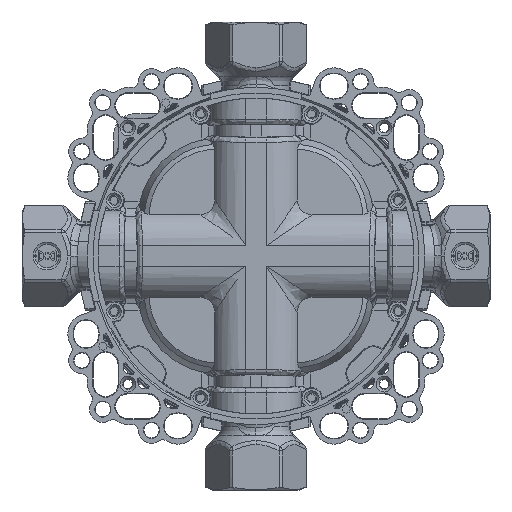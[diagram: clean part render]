
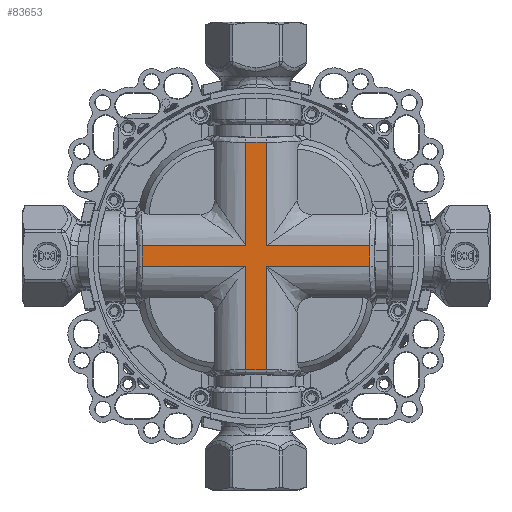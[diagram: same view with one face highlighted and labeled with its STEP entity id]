
A CAD part, left-side view. The second image highlights one B-rep face of the part: STEP entity #83653.
In plain terms, the highlighted planar face has unit normal (-1, 0, 0).
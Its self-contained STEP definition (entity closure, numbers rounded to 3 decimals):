
#67825=DIRECTION('',(0.,0.,-1.));
#67826=VECTOR('',#67825,37.258);
#67827=CARTESIAN_POINT('',(-28.5,-3.6,-3.6));
#67828=LINE('',#67827,#67826);
#67888=DIRECTION('',(0.,1.,0.));
#67889=VECTOR('',#67888,7.2);
#67890=CARTESIAN_POINT('',(-28.5,-3.6,
-40.858));
#67891=LINE('',#67890,#67889);
#68068=DIRECTION('',(0.,1.,0.));
#68069=VECTOR('',#68068,37.258);
#68070=CARTESIAN_POINT('',(-28.5,3.6,-3.6));
#68071=LINE('',#68070,#68069);
#68119=CARTESIAN_POINT('',(-28.5,40.858,
-3.6));
#68138=CARTESIAN_POINT('',(-28.5,3.6,-3.6));
#68160=DIRECTION('',(0.,0.,1.));
#68161=VECTOR('',#68160,37.258);
#68162=CARTESIAN_POINT('',(-28.5,3.6,
-40.858));
#68163=LINE('',#68162,#68161);
#69682=DIRECTION('',(0.,0.,1.));
#69683=VECTOR('',#69682,37.258);
#69684=CARTESIAN_POINT('',(-28.5,3.6,3.6));
#69685=LINE('',#69684,#69683);
#69752=CARTESIAN_POINT('',(-28.5,3.6,3.6));
#69774=DIRECTION('',(0.,-1.,0.));
#69775=VECTOR('',#69774,37.258);
#69776=CARTESIAN_POINT('',(-28.5,40.858,
3.6));
#69777=LINE('',#69776,#69775);
#69823=DIRECTION('',(0.,0.,1.));
#69824=VECTOR('',#69823,7.2);
#69825=CARTESIAN_POINT('',(-28.5,40.858,
-3.6));
#69826=LINE('',#69825,#69824);
#70396=DIRECTION('',(0.,-1.,0.));
#70397=VECTOR('',#70396,37.258);
#70398=CARTESIAN_POINT('',(-28.5,-3.6,3.6));
#70399=LINE('',#70398,#70397);
#70466=CARTESIAN_POINT('',(-28.5,-3.6,3.6));
#70488=DIRECTION('',(0.,0.,-1.));
#70489=VECTOR('',#70488,37.258);
#70490=CARTESIAN_POINT('',(-28.5,-3.6,
40.858));
#70491=LINE('',#70490,#70489);
#70541=DIRECTION('',(0.,-1.,0.));
#70542=VECTOR('',#70541,7.2);
#70543=CARTESIAN_POINT('',(-28.5,3.6,
40.858));
#70544=LINE('',#70543,#70542);
#71413=DIRECTION('',(0.,1.,0.));
#71414=VECTOR('',#71413,37.258);
#71415=CARTESIAN_POINT('',(-28.5,-40.858,
-3.6));
#71416=LINE('',#71415,#71414);
#71443=CARTESIAN_POINT('',(-28.5,-3.6,-3.6));
#71495=DIRECTION('',(0.,0.,-1.));
#71496=VECTOR('',#71495,7.2);
#71497=CARTESIAN_POINT('',(-28.5,-40.858,
3.6));
#71498=LINE('',#71497,#71496);
#74241=VERTEX_POINT('',#69752);
#74648=VERTEX_POINT('',#70466);
#75052=VERTEX_POINT('',#71443);
#75390=VERTEX_POINT('',#68138);
#75472=CARTESIAN_POINT('',(-28.5,-3.6,40.858));
#75474=VERTEX_POINT('',#75472);
#75565=CARTESIAN_POINT('',(-28.5,-40.858,-3.6));
#75567=VERTEX_POINT('',#75565);
#75658=CARTESIAN_POINT('',(-28.5,3.6,-40.858));
#75660=VERTEX_POINT('',#75658);
#75747=VERTEX_POINT('',#68119);
#75782=CARTESIAN_POINT('',(-28.5,-3.6,-40.858));
#75783=VERTEX_POINT('',#75782);
#75806=CARTESIAN_POINT('',(-28.5,-40.858,
3.6));
#75807=VERTEX_POINT('',#75806);
#75808=CARTESIAN_POINT('',(-28.5,3.6,
40.858));
#75809=VERTEX_POINT('',#75808);
#75810=CARTESIAN_POINT('',(-28.5,40.858,
3.6));
#75811=VERTEX_POINT('',#75810);
#83623=CARTESIAN_POINT('',(-28.5,0.,-3.071));
#83624=DIRECTION('',(-1.,0.,0.));
#83625=DIRECTION('',(0.,0.,1.));
#83626=AXIS2_PLACEMENT_3D('',#83623,#83624,#83625);
#83627=PLANE('',#83626);
#83629=ORIENTED_EDGE('',*,*,#83628,.T.);
#83631=ORIENTED_EDGE('',*,*,#83630,.T.);
#83633=ORIENTED_EDGE('',*,*,#83632,.T.);
#83635=ORIENTED_EDGE('',*,*,#83634,.T.);
#83637=ORIENTED_EDGE('',*,*,#83636,.T.);
#83639=ORIENTED_EDGE('',*,*,#83638,.T.);
#83641=ORIENTED_EDGE('',*,*,#83640,.T.);
#83643=ORIENTED_EDGE('',*,*,#83642,.T.);
#83645=ORIENTED_EDGE('',*,*,#83644,.T.);
#83647=ORIENTED_EDGE('',*,*,#83646,.T.);
#83649=ORIENTED_EDGE('',*,*,#83648,.T.);
#83650=ORIENTED_EDGE('',*,*,#83607,.T.);
#83651=EDGE_LOOP('',(#83629,#83631,#83633,#83635,#83637,#83639,#83641,#83643,
#83645,#83647,#83649,#83650));
#83652=FACE_OUTER_BOUND('',#83651,.F.);
#83653=ADVANCED_FACE('',(#83652),#83627,.T.);
#83607=EDGE_CURVE('',#75052,#75783,#67828,.T.);
#83628=EDGE_CURVE('',#75783,#75660,#67891,.T.);
#83630=EDGE_CURVE('',#75660,#75390,#68163,.T.);
#83632=EDGE_CURVE('',#75390,#75747,#68071,.T.);
#83634=EDGE_CURVE('',#75747,#75811,#69826,.T.);
#83636=EDGE_CURVE('',#75811,#74241,#69777,.T.);
#83638=EDGE_CURVE('',#74241,#75809,#69685,.T.);
#83640=EDGE_CURVE('',#75809,#75474,#70544,.T.);
#83642=EDGE_CURVE('',#75474,#74648,#70491,.T.);
#83644=EDGE_CURVE('',#74648,#75807,#70399,.T.);
#83646=EDGE_CURVE('',#75807,#75567,#71498,.T.);
#83648=EDGE_CURVE('',#75567,#75052,#71416,.T.);
